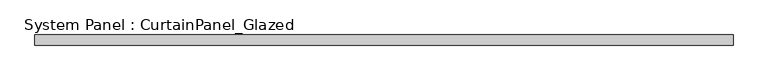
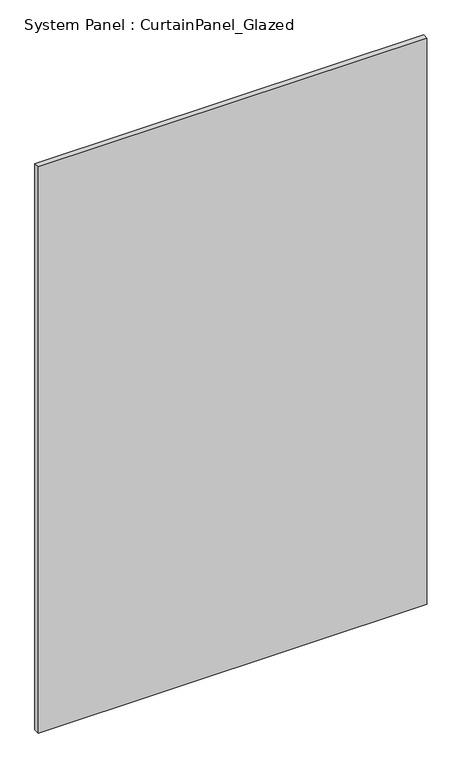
"""IFC4 building model written with IfcOpenShell, lengths in millimetres: plate geometry, System Panel : CurtainPanel_Glazed."""

from ifc_helpers import new_model, si_unit, origin, origin_with_axes, place, context, project, spatial, polyline, outline, extrude, source, transform, mapped, element, save


def system_panel_curtainpanel_glazed_beeb97b1(model_context):
    return source(origin(), model_context, "Body", "SweptSolid", [
        extrude(outline(polyline([(828.0555557, -12.5), (-828.0555557, -12.5), (-828.0555557, 12.5), (828.0555557, 12.5), (828.0555557, -12.5)])), origin_with_axes(), (0.0, 0.0, 1.0), 2550.0),
    ])


if __name__ == "__main__":
    model = new_model("IFC4")
    model_context = context("Model", 3, world=origin())
    ifc_project = project(units=[si_unit("LENGTHUNIT", "METRE", prefix="MILLI")], contexts=[model_context])
    site = spatial("IfcSite", under=ifc_project)
    building = spatial("IfcBuilding", under=site)
    placement = place(None, origin())
    system_panel_curtainpanel_glazed_shape = system_panel_curtainpanel_glazed_beeb97b1(model_context)
    element("IfcPlate", 1, ObjectType="System Panel : CurtainPanel_Glazed", at=placement, inside=building, context=model_context, shape_type="MappedRepresentation", body=[
        mapped(system_panel_curtainpanel_glazed_shape, transform((0.0, 0.0, 0.0), x_axis=(1.0, 0.0, 0.0), y_axis=(0.0, 1.0, 0.0), z_axis=(0.0, 0.0, 1.0))),
    ])
    save(model, "model.ifc")
